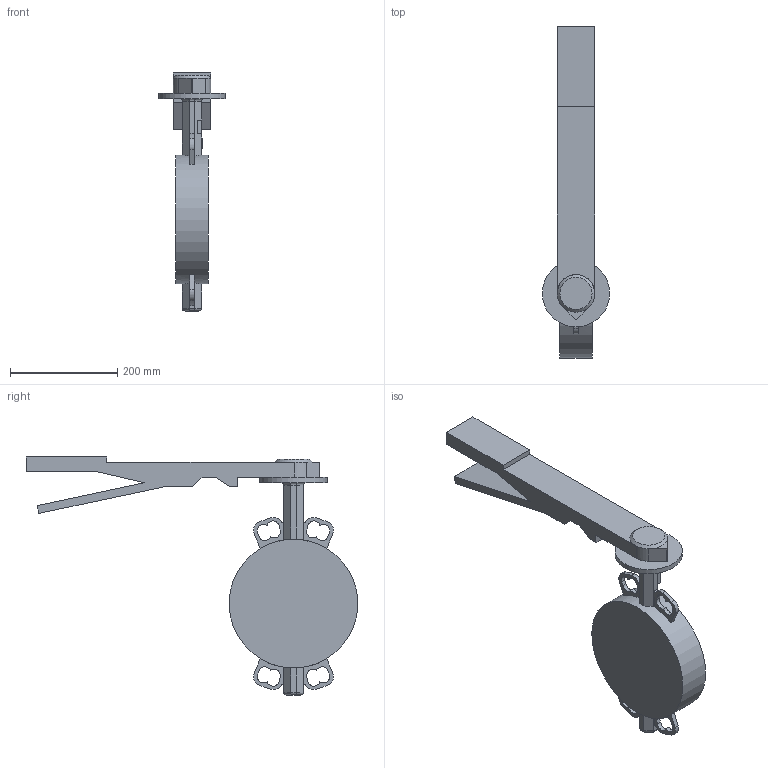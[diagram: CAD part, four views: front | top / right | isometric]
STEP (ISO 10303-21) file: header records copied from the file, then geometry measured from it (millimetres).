
FILE_DESCRIPTION(/* description */ (''),/* implementation_level */ '2;1');
FILE_NAME(/* name */ 'DN200-.stp',/* time_stamp */ '2026-08-17T10:27:15+08:00',/* author */ (''),/* organization */ (''),/* preprocessor_version */ 'ST-DEVELOPER v16.7',/* originating_system */ 'SIEMENS PLM Software NX 12.0',/* authorisation */ '');
FILE_SCHEMA (('AUTOMOTIVE_DESIGN { 1 0 10303 214 3 1 1 1 }'));
Length unit declared in the file: millimetre
Products named in the file (2): 8-12寸手柄; DN200
Assembly tree (1 placements, depth 2):
  DN200
    8-12寸手柄
Bounding box: 125 x 618.35 x 443.63 mm (x, y, z)
Volume: 4456090.6 mm3; surface area: 346358.1 mm2
Topology: 7 solids, 7 shells, 227 faces, 610 edges, 400 vertices
Faces by surface type: plane 106, extrusion 68, cylinder 52, cone 1
Full cylindrical faces by diameter (mm): 125 x1, 240 x1
Entity records: 7459 total; most frequent: CARTESIAN_POINT 1846, ORIENTED_EDGE 1212, DIRECTION 974, EDGE_CURVE 606, VECTOR 424, VERTEX_POINT 399, LINE 356, AXIS2_PLACEMENT_3D 275
